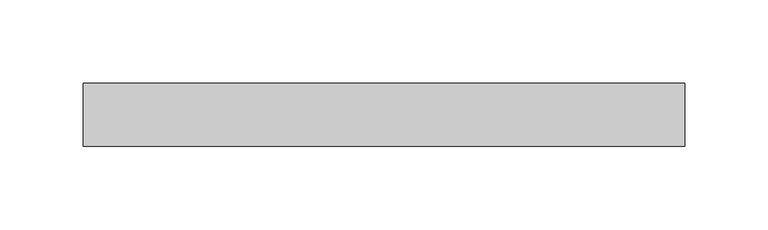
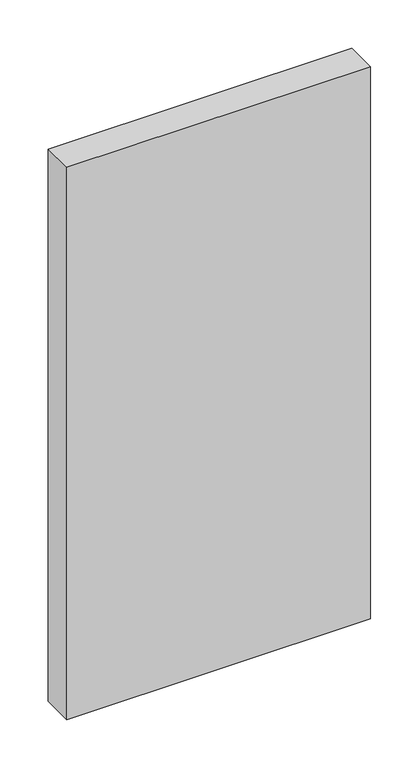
"""IFC4 building model written with IfcOpenShell, lengths in millimetres: proxy geometry, FOUNDATION^PEDESTAL_PLINTH-14.25x27.38."""

from ifc_helpers import new_model, si_unit, frame, origin, place, context, project, spatial, polyline, outline, extrude, source, transform, mapped, element, save


def generic_models_adff37a0(model_context):
    return source(origin(), model_context, "Body", "SweptSolid", [
        extrude(outline(polyline([(361.95, 0.0), (0.0, 0.0), (0.0, 38.1), (361.95, 38.1), (361.95, 0.0)])), frame((0.0, 0.0, -695.325), z_axis=(0.0, 0.0, 1.0), x_axis=(1.0, 0.0, 0.0)), (0.0, 0.0, 1.0), 695.325),
    ])


if __name__ == "__main__":
    model = new_model("IFC4")
    model_context = context("Model", 3, world=origin())
    ifc_project = project(units=[si_unit("LENGTHUNIT", "METRE", prefix="MILLI")], contexts=[model_context])
    site = spatial("IfcSite", under=ifc_project)
    building = spatial("IfcBuilding", under=site)
    placement = place(None, origin())
    generic_models_shape = generic_models_adff37a0(model_context)
    element("IfcBuildingElementProxy", 1, Name="FOUNDATION^PEDESTAL_PLINTH-14.25x27.38", ObjectType="FOUNDATION^PEDESTAL_PLINTH-14.25x27.38", at=placement, inside=building, context=model_context, shape_type="MappedRepresentation", body=[
        mapped(generic_models_shape, transform((0.0, 0.0, 0.0), x_axis=(1.0, 0.0, 0.0), y_axis=(0.0, 1.0, 0.0), z_axis=(0.0, 0.0, 1.0))),
    ])
    save(model, "model.ifc")
